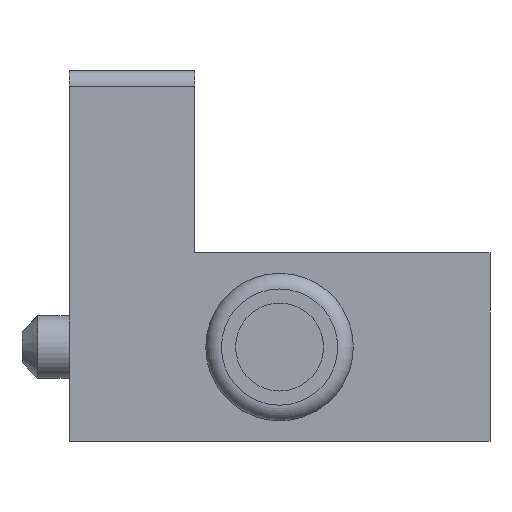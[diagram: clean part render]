
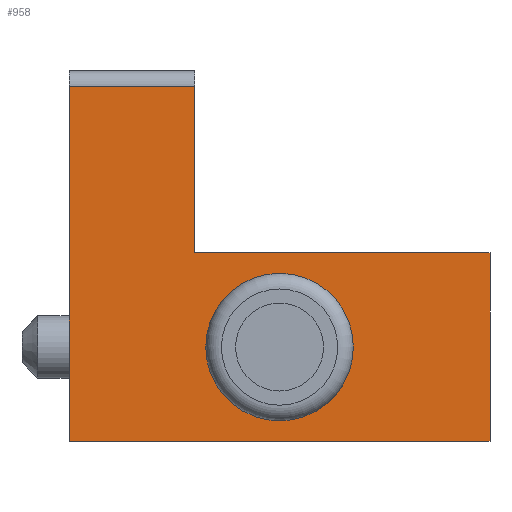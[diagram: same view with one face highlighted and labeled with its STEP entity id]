
A CAD part, front view. The second image highlights one B-rep face of the part: STEP entity #958.
In plain terms, the highlighted planar face has unit normal (0, -1, 0).
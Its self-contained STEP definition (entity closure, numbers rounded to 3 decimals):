
#25=FACE_BOUND('',#159,.T.);
#39=CIRCLE('',#1015,2.35);
#99=FACE_OUTER_BOUND('',#158,.T.);
#158=EDGE_LOOP('',(#828,#829,#830,#831,#832,#833));
#159=EDGE_LOOP('',(#834));
#240=LINE('',#1447,#353);
#247=LINE('',#1466,#360);
#267=LINE('',#1535,#380);
#273=LINE('',#1546,#386);
#274=LINE('',#1548,#387);
#275=LINE('',#1549,#388);
#353=VECTOR('',#1171,10.);
#360=VECTOR('',#1188,10.);
#380=VECTOR('',#1262,10.);
#386=VECTOR('',#1272,10.);
#387=VECTOR('',#1275,10.);
#388=VECTOR('',#1276,10.);
#447=VERTEX_POINT('',#1444);
#448=VERTEX_POINT('',#1446);
#455=VERTEX_POINT('',#1464);
#463=VERTEX_POINT('',#1493);
#476=VERTEX_POINT('',#1532);
#477=VERTEX_POINT('',#1534);
#480=VERTEX_POINT('',#1544);
#559=EDGE_CURVE('',#448,#447,#240,.T.);
#569=EDGE_CURVE('',#455,#447,#247,.T.);
#582=EDGE_CURVE('',#463,#463,#39,.T.);
#599=EDGE_CURVE('',#476,#477,#267,.T.);
#605=EDGE_CURVE('',#480,#476,#273,.T.);
#606=EDGE_CURVE('',#455,#477,#274,.T.);
#607=EDGE_CURVE('',#448,#480,#275,.T.);
#828=ORIENTED_EDGE('',*,*,#569,.F.);
#829=ORIENTED_EDGE('',*,*,#606,.T.);
#830=ORIENTED_EDGE('',*,*,#599,.F.);
#831=ORIENTED_EDGE('',*,*,#605,.F.);
#832=ORIENTED_EDGE('',*,*,#607,.F.);
#833=ORIENTED_EDGE('',*,*,#559,.T.);
#834=ORIENTED_EDGE('',*,*,#582,.T.);
#907=PLANE('',#1033);
#958=ADVANCED_FACE('',(#99,#25),#907,.T.);
#1015=AXIS2_PLACEMENT_3D('',#1494,#1219,#1220);
#1033=AXIS2_PLACEMENT_3D('',#1547,#1273,#1274);
#1171=DIRECTION('',(0.,0.,1.));
#1188=DIRECTION('',(1.,0.,0.));
#1219=DIRECTION('center_axis',(0.,1.,0.));
#1220=DIRECTION('ref_axis',(-1.,0.,0.));
#1262=DIRECTION('',(-1.,0.,0.));
#1272=DIRECTION('',(0.,0.,-1.));
#1273=DIRECTION('center_axis',(0.,-1.,0.));
#1274=DIRECTION('ref_axis',(1.,0.,0.));
#1275=DIRECTION('',(0.,0.,-1.));
#1276=DIRECTION('',(1.,0.,0.));
#1444=CARTESIAN_POINT('',(-6.337,9.795,5.4));
#1446=CARTESIAN_POINT('',(-6.337,9.795,0.1));
#1447=CARTESIAN_POINT('',(-6.337,9.795,0.1));
#1464=CARTESIAN_POINT('',(-10.337,9.795,5.4));
#1466=CARTESIAN_POINT('',(-9.337,9.795,5.4));
#1493=CARTESIAN_POINT('',(-1.287,9.795,-2.9));
#1494=CARTESIAN_POINT('Origin',(-3.637,9.795,-2.9));
#1532=CARTESIAN_POINT('',(3.063,9.795,-5.9));
#1534=CARTESIAN_POINT('',(-10.337,9.795,-5.9));
#1535=CARTESIAN_POINT('',(3.063,9.795,-5.9));
#1544=CARTESIAN_POINT('',(3.063,9.795,0.1));
#1546=CARTESIAN_POINT('',(3.063,9.795,-2.9));
#1547=CARTESIAN_POINT('Origin',(-10.337,9.795,-2.9));
#1548=CARTESIAN_POINT('',(-10.337,9.795,-2.9));
#1549=CARTESIAN_POINT('',(3.063,9.795,0.1));
